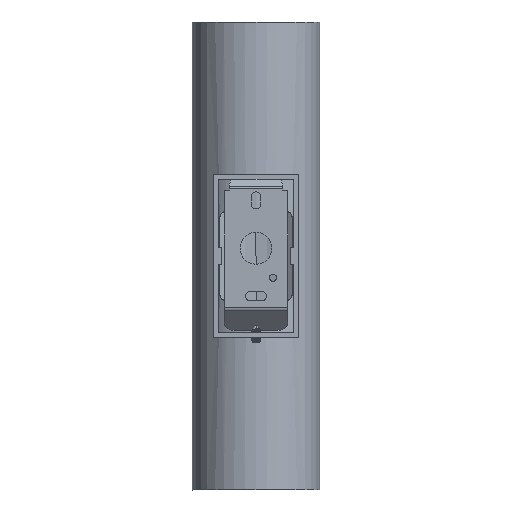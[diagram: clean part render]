
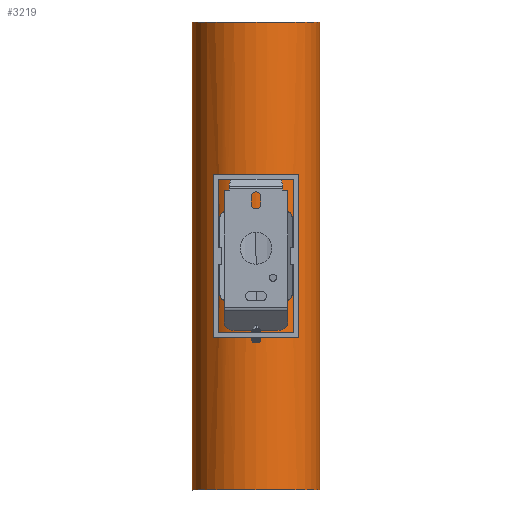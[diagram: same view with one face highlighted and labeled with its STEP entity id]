
A CAD part, front view. The second image highlights one B-rep face of the part: STEP entity #3219.
In plain terms, the highlighted cylindrical face has radius 30 mm (diameter 60 mm), a partial arc.
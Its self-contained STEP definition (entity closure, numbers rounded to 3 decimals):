
#34=B_SPLINE_CURVE_WITH_KNOTS('',3,(#5063,#5064,#5065,#5066,#5067,#5068,
#5069,#5070,#5071,#5072,#5073,#5074,#5075,#5076,#5077,#5078,#5079,#5080),
 .UNSPECIFIED.,.F.,.F.,(4,2,2,2,2,2,2,2,4),(4.761,5.396,
6.031,6.666,7.302,7.891,8.481,
9.071,9.661),.UNSPECIFIED.);
#36=B_SPLINE_CURVE_WITH_KNOTS('',3,(#5110,#5111,#5112,#5113,#5114,#5115,
#5116,#5117,#5118,#5119,#5120,#5121,#5122,#5123,#5124,#5125,#5126,#5127),
 .UNSPECIFIED.,.F.,.F.,(4,2,2,2,2,2,2,2,4),(0.,0.565,
1.13,1.694,2.259,2.919,3.579,
4.239,4.899),.UNSPECIFIED.);
#38=B_SPLINE_CURVE_WITH_KNOTS('',3,(#5156,#5157,#5158,#5159,#5160,#5161,
#5162,#5163,#5164,#5165,#5166,#5167,#5168,#5169,#5170,#5171,#5172,#5173),
 .UNSPECIFIED.,.F.,.F.,(4,2,2,2,2,2,2,2,4),(14.421,15.081,
15.741,16.401,17.061,17.626,18.191,
18.756,19.32),.UNSPECIFIED.);
#40=B_SPLINE_CURVE_WITH_KNOTS('',3,(#5200,#5201,#5202,#5203,#5204,#5205,
#5206,#5207,#5208,#5209,#5210,#5211,#5212,#5213,#5214,#5215,#5216,#5217),
 .UNSPECIFIED.,.F.,.F.,(4,2,2,2,2,2,2,2,4),(9.66,10.249,
10.839,11.429,12.019,12.654,13.289,
13.925,14.56),.UNSPECIFIED.);
#124=FACE_BOUND('',#514,.T.);
#347=FACE_OUTER_BOUND('',#513,.T.);
#513=EDGE_LOOP('',(#2562,#2563,#2564,#2565));
#514=EDGE_LOOP('',(#2566,#2567,#2568,#2569,#2570,#2571,#2572,#2573));
#729=LINE('',#5037,#977);
#737=LINE('',#5133,#985);
#743=LINE('',#5236,#991);
#744=LINE('',#5239,#992);
#977=VECTOR('',#4009,304.8);
#985=VECTOR('',#4031,304.8);
#991=VECTOR('',#4065,304.8);
#992=VECTOR('',#4068,304.8);
#1146=CIRCLE('',#3429,30.);
#1149=CIRCLE('',#3436,30.);
#1154=CIRCLE('',#3445,30.);
#1155=CIRCLE('',#3446,30.);
#1381=VERTEX_POINT('',#5033);
#1383=VERTEX_POINT('',#5036);
#1386=VERTEX_POINT('',#5043);
#1388=VERTEX_POINT('',#5083);
#1390=VERTEX_POINT('',#5090);
#1392=VERTEX_POINT('',#5130);
#1394=VERTEX_POINT('',#5136);
#1396=VERTEX_POINT('',#5176);
#1401=VERTEX_POINT('',#5232);
#1402=VERTEX_POINT('',#5233);
#1403=VERTEX_POINT('',#5235);
#1404=VERTEX_POINT('',#5237);
#1803=EDGE_CURVE('',#1383,#1381,#729,.T.);
#1808=EDGE_CURVE('',#1386,#1383,#34,.T.);
#1812=EDGE_CURVE('',#1388,#1386,#1146,.T.);
#1815=EDGE_CURVE('',#1390,#1388,#36,.T.);
#1818=EDGE_CURVE('',#1392,#1390,#737,.T.);
#1821=EDGE_CURVE('',#1394,#1392,#38,.T.);
#1825=EDGE_CURVE('',#1396,#1394,#1149,.T.);
#1827=EDGE_CURVE('',#1381,#1396,#40,.T.);
#1835=EDGE_CURVE('',#1401,#1402,#1154,.T.);
#1836=EDGE_CURVE('',#1403,#1401,#743,.T.);
#1837=EDGE_CURVE('',#1404,#1403,#1155,.T.);
#1838=EDGE_CURVE('',#1402,#1404,#744,.T.);
#2562=ORIENTED_EDGE('',*,*,#1835,.F.);
#2563=ORIENTED_EDGE('',*,*,#1836,.F.);
#2564=ORIENTED_EDGE('',*,*,#1837,.F.);
#2565=ORIENTED_EDGE('',*,*,#1838,.F.);
#2566=ORIENTED_EDGE('',*,*,#1827,.T.);
#2567=ORIENTED_EDGE('',*,*,#1825,.T.);
#2568=ORIENTED_EDGE('',*,*,#1821,.T.);
#2569=ORIENTED_EDGE('',*,*,#1818,.T.);
#2570=ORIENTED_EDGE('',*,*,#1815,.T.);
#2571=ORIENTED_EDGE('',*,*,#1812,.T.);
#2572=ORIENTED_EDGE('',*,*,#1808,.T.);
#2573=ORIENTED_EDGE('',*,*,#1803,.T.);
#3091=CYLINDRICAL_SURFACE('',#3444,30.);
#3219=ADVANCED_FACE('',(#347,#124),#3091,.T.);
#3429=AXIS2_PLACEMENT_3D('',#5087,#4022,#4023);
#3436=AXIS2_PLACEMENT_3D('',#5180,#4042,#4043);
#3444=AXIS2_PLACEMENT_3D('',#5231,#4061,#4062);
#3445=AXIS2_PLACEMENT_3D('',#5234,#4063,#4064);
#3446=AXIS2_PLACEMENT_3D('',#5238,#4066,#4067);
#4009=DIRECTION('',(-1.,0.,0.));
#4022=DIRECTION('center_axis',(1.,0.,0.));
#4023=DIRECTION('ref_axis',(0.,-1.,0.));
#4031=DIRECTION('',(1.,0.,0.));
#4042=DIRECTION('center_axis',(-1.,0.,0.));
#4043=DIRECTION('ref_axis',(0.,-1.,0.));
#4061=DIRECTION('center_axis',(1.,0.,0.));
#4062=DIRECTION('ref_axis',(0.,-1.,0.));
#4063=DIRECTION('center_axis',(1.,0.,0.));
#4064=DIRECTION('ref_axis',(0.,-1.,0.));
#4065=DIRECTION('',(1.,0.,0.));
#4066=DIRECTION('center_axis',(-1.,0.,0.));
#4067=DIRECTION('ref_axis',(0.,-1.,0.));
#4068=DIRECTION('',(-1.,0.,0.));
#5033=CARTESIAN_POINT('',(-18.,17.,17.907));
#5036=CARTESIAN_POINT('',(18.,17.,17.907));
#5037=CARTESIAN_POINT('',(18.,17.,17.907));
#5043=CARTESIAN_POINT('',(21.,14.,16.092));
#5063=CARTESIAN_POINT('Ctrl Pts',(21.,14.,16.092));
#5064=CARTESIAN_POINT('Ctrl Pts',(21.,14.187,16.191));
#5065=CARTESIAN_POINT('Ctrl Pts',(20.982,14.381,16.296));
#5066=CARTESIAN_POINT('Ctrl Pts',(20.907,14.765,16.51));
#5067=CARTESIAN_POINT('Ctrl Pts',(20.85,14.956,16.619));
#5068=CARTESIAN_POINT('Ctrl Pts',(20.699,15.325,16.834));
#5069=CARTESIAN_POINT('Ctrl Pts',(20.604,15.502,16.94));
#5070=CARTESIAN_POINT('Ctrl Pts',(20.384,15.832,17.142));
#5071=CARTESIAN_POINT('Ctrl Pts',(20.258,15.985,17.238));
#5072=CARTESIAN_POINT('Ctrl Pts',(19.995,16.248,17.406));
#5073=CARTESIAN_POINT('Ctrl Pts',(19.85,16.37,17.485));
#5074=CARTESIAN_POINT('Ctrl Pts',(19.531,16.587,17.628));
#5075=CARTESIAN_POINT('Ctrl Pts',(19.356,16.683,17.692));
#5076=CARTESIAN_POINT('Ctrl Pts',(18.988,16.84,17.797));
#5077=CARTESIAN_POINT('Ctrl Pts',(18.793,16.9,17.839));
#5078=CARTESIAN_POINT('Ctrl Pts',(18.398,16.98,17.893));
#5079=CARTESIAN_POINT('Ctrl Pts',(18.197,17.,17.907));
#5080=CARTESIAN_POINT('Ctrl Pts',(18.,17.,17.907));
#5083=CARTESIAN_POINT('',(21.,-14.,16.092));
#5087=CARTESIAN_POINT('Origin',(21.,0.,42.625));
#5090=CARTESIAN_POINT('',(18.,-17.,17.907));
#5110=CARTESIAN_POINT('Ctrl Pts',(18.,-17.,17.907));
#5111=CARTESIAN_POINT('Ctrl Pts',(18.188,-17.,17.907));
#5112=CARTESIAN_POINT('Ctrl Pts',(18.381,-16.982,17.895));
#5113=CARTESIAN_POINT('Ctrl Pts',(18.762,-16.908,17.844));
#5114=CARTESIAN_POINT('Ctrl Pts',(18.95,-16.852,17.806));
#5115=CARTESIAN_POINT('Ctrl Pts',(19.307,-16.707,17.708));
#5116=CARTESIAN_POINT('Ctrl Pts',(19.477,-16.618,17.648));
#5117=CARTESIAN_POINT('Ctrl Pts',(19.789,-16.416,17.515));
#5118=CARTESIAN_POINT('Ctrl Pts',(19.931,-16.303,17.441));
#5119=CARTESIAN_POINT('Ctrl Pts',(20.203,-16.046,17.277));
#5120=CARTESIAN_POINT('Ctrl Pts',(20.338,-15.891,17.179));
#5121=CARTESIAN_POINT('Ctrl Pts',(20.575,-15.553,16.971));
#5122=CARTESIAN_POINT('Ctrl Pts',(20.676,-15.371,16.861));
#5123=CARTESIAN_POINT('Ctrl Pts',(20.839,-14.991,16.639));
#5124=CARTESIAN_POINT('Ctrl Pts',(20.9,-14.793,16.526));
#5125=CARTESIAN_POINT('Ctrl Pts',(20.981,-14.395,16.304));
#5126=CARTESIAN_POINT('Ctrl Pts',(21.,-14.195,16.195));
#5127=CARTESIAN_POINT('Ctrl Pts',(21.,-14.,16.092));
#5130=CARTESIAN_POINT('',(-18.,-17.,17.907));
#5133=CARTESIAN_POINT('',(-18.,-17.,17.907));
#5136=CARTESIAN_POINT('',(-21.,-14.,16.092));
#5156=CARTESIAN_POINT('Ctrl Pts',(-21.,-14.,16.092));
#5157=CARTESIAN_POINT('Ctrl Pts',(-21.,-14.195,16.195));
#5158=CARTESIAN_POINT('Ctrl Pts',(-20.981,-14.395,16.304));
#5159=CARTESIAN_POINT('Ctrl Pts',(-20.9,-14.793,16.526));
#5160=CARTESIAN_POINT('Ctrl Pts',(-20.839,-14.991,16.639));
#5161=CARTESIAN_POINT('Ctrl Pts',(-20.676,-15.371,16.861));
#5162=CARTESIAN_POINT('Ctrl Pts',(-20.575,-15.553,16.971));
#5163=CARTESIAN_POINT('Ctrl Pts',(-20.338,-15.891,17.179));
#5164=CARTESIAN_POINT('Ctrl Pts',(-20.203,-16.046,17.277));
#5165=CARTESIAN_POINT('Ctrl Pts',(-19.931,-16.303,17.441));
#5166=CARTESIAN_POINT('Ctrl Pts',(-19.789,-16.416,17.515));
#5167=CARTESIAN_POINT('Ctrl Pts',(-19.477,-16.618,17.648));
#5168=CARTESIAN_POINT('Ctrl Pts',(-19.307,-16.707,17.708));
#5169=CARTESIAN_POINT('Ctrl Pts',(-18.95,-16.852,17.806));
#5170=CARTESIAN_POINT('Ctrl Pts',(-18.762,-16.908,17.844));
#5171=CARTESIAN_POINT('Ctrl Pts',(-18.381,-16.982,17.895));
#5172=CARTESIAN_POINT('Ctrl Pts',(-18.188,-17.,17.907));
#5173=CARTESIAN_POINT('Ctrl Pts',(-18.,-17.,17.907));
#5176=CARTESIAN_POINT('',(-21.,14.,16.092));
#5180=CARTESIAN_POINT('Origin',(-21.,0.,42.625));
#5200=CARTESIAN_POINT('Ctrl Pts',(-18.,17.,17.907));
#5201=CARTESIAN_POINT('Ctrl Pts',(-18.197,17.,17.907));
#5202=CARTESIAN_POINT('Ctrl Pts',(-18.398,16.98,17.893));
#5203=CARTESIAN_POINT('Ctrl Pts',(-18.793,16.9,17.839));
#5204=CARTESIAN_POINT('Ctrl Pts',(-18.988,16.84,17.797));
#5205=CARTESIAN_POINT('Ctrl Pts',(-19.356,16.683,17.692));
#5206=CARTESIAN_POINT('Ctrl Pts',(-19.531,16.587,17.628));
#5207=CARTESIAN_POINT('Ctrl Pts',(-19.85,16.37,17.485));
#5208=CARTESIAN_POINT('Ctrl Pts',(-19.995,16.248,17.406));
#5209=CARTESIAN_POINT('Ctrl Pts',(-20.258,15.985,17.238));
#5210=CARTESIAN_POINT('Ctrl Pts',(-20.384,15.832,17.142));
#5211=CARTESIAN_POINT('Ctrl Pts',(-20.604,15.502,16.94));
#5212=CARTESIAN_POINT('Ctrl Pts',(-20.699,15.325,16.834));
#5213=CARTESIAN_POINT('Ctrl Pts',(-20.85,14.956,16.619));
#5214=CARTESIAN_POINT('Ctrl Pts',(-20.907,14.765,16.51));
#5215=CARTESIAN_POINT('Ctrl Pts',(-20.982,14.381,16.296));
#5216=CARTESIAN_POINT('Ctrl Pts',(-21.,14.187,16.191));
#5217=CARTESIAN_POINT('Ctrl Pts',(-21.,14.,16.092));
#5231=CARTESIAN_POINT('Origin',(-110.,0.,42.625));
#5232=CARTESIAN_POINT('',(110.,-30.,42.625));
#5233=CARTESIAN_POINT('',(110.,30.,42.625));
#5234=CARTESIAN_POINT('Origin',(110.,0.,42.625));
#5235=CARTESIAN_POINT('',(-110.,-30.,42.625));
#5236=CARTESIAN_POINT('',(-110.,-30.,42.625));
#5237=CARTESIAN_POINT('',(-110.,30.,42.625));
#5238=CARTESIAN_POINT('Origin',(-110.,0.,42.625));
#5239=CARTESIAN_POINT('',(110.,30.,42.625));
